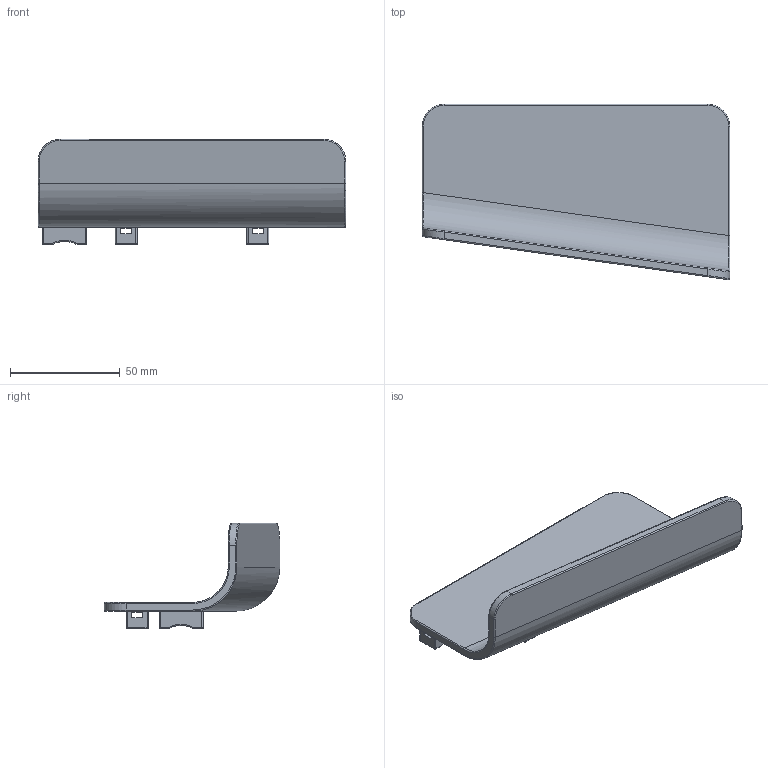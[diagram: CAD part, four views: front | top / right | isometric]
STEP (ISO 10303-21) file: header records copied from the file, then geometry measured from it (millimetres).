
FILE_DESCRIPTION(/* description */ (''),/* implementation_level */ '2;1');
FILE_NAME(/* name */ 'Auflage_Tuergriff_Links_DIN_R_HK17628_BL.1.2.stp',/* time_stamp */ '2020-04-09T07:47:41+02:00',/* author */ (''),/* organization */ (''),/* preprocessor_version */ 'ST-DEVELOPER v16.7',/* originating_system */ 'SIEMENS PLM Software NX 12.0',/* authorisation */ '');
FILE_SCHEMA (('AUTOMOTIVE_DESIGN { 1 0 10303 214 3 1 1 1 }'));
Length unit declared in the file: millimetre
Products named in the file (2): KIPP-Logo_Auflage_Tuergriff_00941519; Auflage_fuer_Tuergriff_links_konisch_060420_00941553
Assembly tree (1 placements, depth 2):
  Auflage_fuer_Tuergriff_links_konisch_060420_00941553
    KIPP-Logo_Auflage_Tuergriff_00941519
Bounding box: 140 x 79.92 x 48 mm (x, y, z)
Volume: 58667.5 mm3; surface area: 31932.7 mm2
Topology: 3 solids, 3 shells, 267 faces, 703 edges, 437 vertices
Faces by surface type: plane 152, cylinder 53, extrusion 32, sphere 12, torus 10, bspline 8
Full cylindrical faces by diameter (mm): 3.14 x2
Entity records: 8571 total; most frequent: CARTESIAN_POINT 2045, ORIENTED_EDGE 1376, DIRECTION 1286, EDGE_CURVE 688, VECTOR 520, LINE 488, VERTEX_POINT 436, AXIS2_PLACEMENT_3D 383
